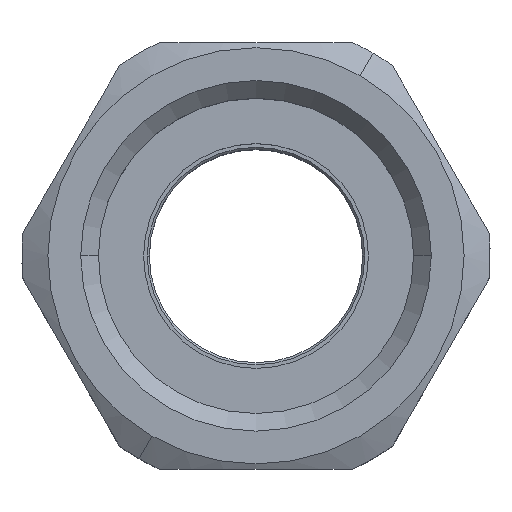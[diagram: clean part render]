
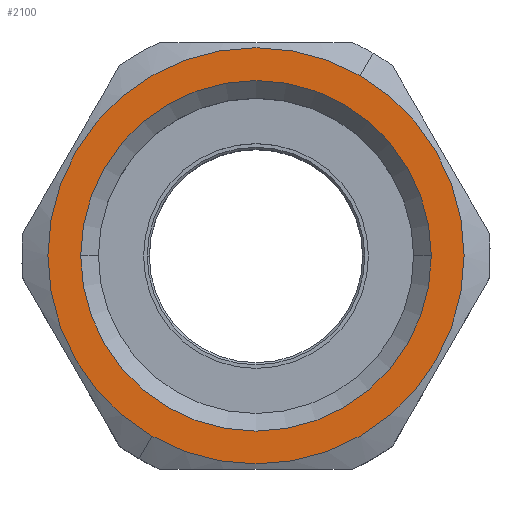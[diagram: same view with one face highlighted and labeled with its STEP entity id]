
A CAD part, top view. The second image highlights one B-rep face of the part: STEP entity #2100.
In plain terms, the highlighted planar face has unit normal (0, 0, 1).
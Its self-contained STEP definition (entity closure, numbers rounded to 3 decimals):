
#1750=CARTESIAN_POINT('',(91.051,39.288,-33.2));
#1760=DIRECTION('',(0.,0.,1.));
#1770=DIRECTION('',(1.,0.,0.));
#1780=AXIS2_PLACEMENT_3D('',#1750,#1760,#1770);
#1790=PLANE('',#1780);
#1800=CARTESIAN_POINT('',(109.676,39.288,-33.2));
#1810=DIRECTION('',(0.,0.,-1.));
#1820=DIRECTION('',(1.,0.,0.));
#1830=AXIS2_PLACEMENT_3D('',#1800,#1810,#1820);
#1840=CIRCLE('',#1830,16.846);
#1850=CARTESIAN_POINT('',(92.831,39.288,-33.2));
#1860=VERTEX_POINT('',#1850);
#1870=CARTESIAN_POINT('',(126.522,39.288,-33.2));
#1880=VERTEX_POINT('',#1870);
#1890=EDGE_CURVE('',#1860,#1880,#1840,.T.);
#1900=ORIENTED_EDGE('',*,*,#1890,.T.);
#1910=EDGE_CURVE('',#1880,#1860,#1840,.T.);
#1920=ORIENTED_EDGE('',*,*,#1910,.T.);
#1930=EDGE_LOOP('',(#1920,#1900));
#1940=FACE_BOUND('',#1930,.T.);
#1950=CARTESIAN_POINT('',(109.676,39.288,-33.2));
#1960=DIRECTION('',(0.,0.,-1.));
#1970=DIRECTION('',(-1.,0.,0.));
#1980=AXIS2_PLACEMENT_3D('',#1950,#1960,#1970);
#1990=CIRCLE('',#1980,20.);
#2000=CARTESIAN_POINT('',(99.676,21.967,-33.2));
#2010=VERTEX_POINT('',#2000);
#2020=CARTESIAN_POINT('',(119.676,56.608,-33.2));
#2030=VERTEX_POINT('',#2020);
#2040=EDGE_CURVE('',#2010,#2030,#1990,.T.);
#2050=ORIENTED_EDGE('',*,*,#2040,.F.);
#2060=EDGE_CURVE('',#2030,#2010,#1990,.T.);
#2070=ORIENTED_EDGE('',*,*,#2060,.F.);
#2080=EDGE_LOOP('',(#2070,#2050));
#2090=FACE_OUTER_BOUND('',#2080,.T.);
#2100=ADVANCED_FACE('',(#1940,#2090),#1790,.T.);
